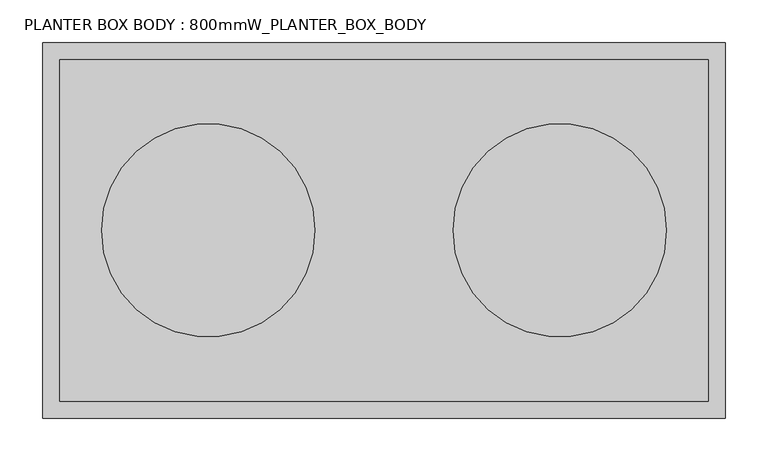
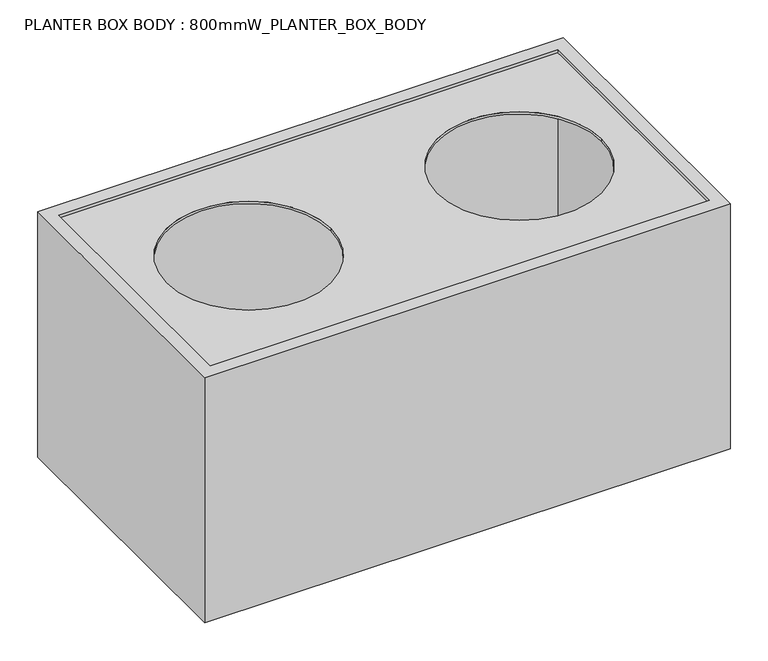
"""IFC4 building model written with IfcOpenShell, lengths in millimetres: furniture geometry, PLANTER BOX BODY : 800mmW_PLANTER_BOX_BODY."""

from ifc_helpers import new_model, si_unit, point, frame, frame_2d, origin, origin_with_axes, place, context, project, spatial, polyline, circle_curve, trimmed, segment, composite_curve, outline, extrude, source, transform, mapped, element, save


def planter_box_body_800mmw_planter_box_body_e97623bf(model_context):
    return source(origin(), model_context, "Body", "SweptSolid", [
        extrude(outline(polyline([(380.0, 200.0), (380.0, -200.0), (-380.0, -200.0), (-380.0, 200.0), (380.0, 200.0)])), origin_with_axes(), (0.0, 0.0, 1.0), 15.0),
        extrude(outline(polyline([(380.0, 200.0), (380.0, -200.0), (-380.0, -200.0), (-380.0, 200.0), (380.0, 200.0)]), holes=[composite_curve([segment(trimmed(circle_curve(frame_2d((-206.0, 0.0)), 125.0), [point((-331.0, 0.0))], [point((-81.0, 0.0))], True, "CARTESIAN"), True, "CONTINUOUS"), segment(trimmed(circle_curve(frame_2d((-206.0, 0.0)), 125.0), [point((-81.0, 0.0))], [point((-331.0, 0.0))], True, "CARTESIAN"), True, "CONTINUOUS")], self_intersect=False), composite_curve([segment(trimmed(circle_curve(frame_2d((206.0, 0.0)), 125.0), [point((81.0, 0.0))], [point((331.0, 0.0))], True, "CARTESIAN"), True, "CONTINUOUS"), segment(trimmed(circle_curve(frame_2d((206.0, 0.0)), 125.0), [point((331.0, 0.0))], [point((81.0, 0.0))], True, "CARTESIAN"), True, "CONTINUOUS")], self_intersect=False)]), frame((0.0, 0.0, 386.4363245), z_axis=(0.0, 0.0, 1.0), x_axis=(1.0, 0.0, 0.0)), (0.0, 0.0, 1.0), 3.5636755),
        extrude(outline(polyline([(400.0, 220.0), (400.0, -220.0), (-400.0, -220.0), (-400.0, 220.0), (400.0, 220.0)]), holes=[polyline([(-380.0, 200.0), (-380.0, -200.0), (380.0, -200.0), (380.0, 200.0), (-380.0, 200.0)])]), origin_with_axes(), (0.0, 0.0, 1.0), 395.0),
    ])


if __name__ == "__main__":
    model = new_model("IFC4")
    model_context = context("Model", 3, world=origin())
    ifc_project = project(units=[si_unit("LENGTHUNIT", "METRE", prefix="MILLI")], contexts=[model_context])
    site = spatial("IfcSite", under=ifc_project)
    building = spatial("IfcBuilding", under=site)
    placement = place(None, origin())
    planter_box_body_800mmw_planter_box_body_shape = planter_box_body_800mmw_planter_box_body_e97623bf(model_context)
    element("IfcFurniture", 1, ObjectType="PLANTER BOX BODY : 800mmW_PLANTER_BOX_BODY", at=placement, inside=building, context=model_context, shape_type="MappedRepresentation", body=[
        mapped(planter_box_body_800mmw_planter_box_body_shape, transform((0.0, 0.0, 0.0), x_axis=(1.0, 0.0, 0.0), y_axis=(0.0, 1.0, 0.0), z_axis=(0.0, 0.0, 1.0))),
    ])
    save(model, "model.ifc")
